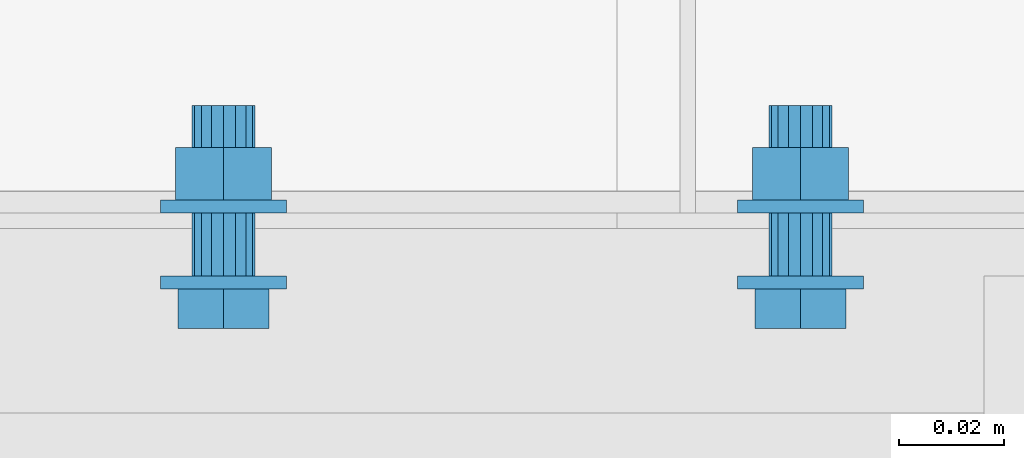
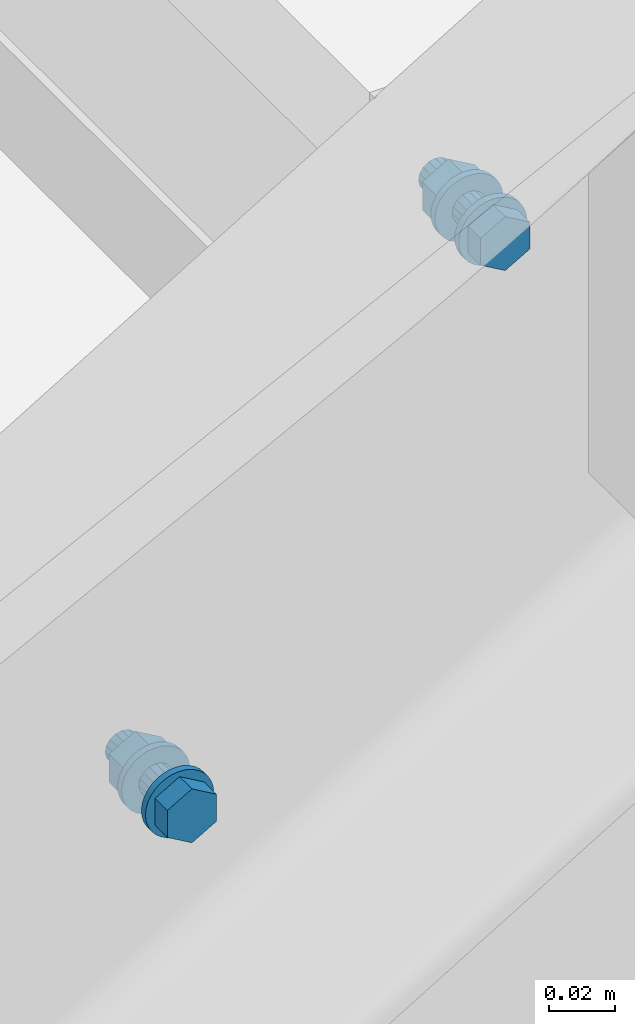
# One storey, part 206 of 410: 2 mechanical fasteners.
"""IFC2X3 building model written with IfcOpenShell, lengths in millimetres."""

from ifc_helpers import new_model, entity, si_unit, converted_unit, origin_with_axes, place, context, project, spatial, faceted_brep, element, save


model = new_model("IFC2X3")

# Units and contexts
model_context = context("Model", 3, precision=1e-09, world=origin_with_axes())
ifc_project = project(units=[si_unit("LENGTHUNIT", "METRE", prefix="MILLI"), si_unit("AREAUNIT", "SQUARE_METRE"), si_unit("VOLUMEUNIT", "CUBIC_METRE"), converted_unit("PLANEANGLEUNIT", "DEGREE", entity("IfcPlaneAngleMeasure", 0.01745329), si_unit("PLANEANGLEUNIT", "RADIAN"), dimensions=[0, 0, 0, 0, 0, 0, 0])], contexts=[model_context])

# Site, building, storey
site_placement = place(None, origin_with_axes())
site = spatial("IfcSite", under=ifc_project, at=site_placement, Name="mKR Teilneubau & Sanierung BA1 - Ostfildern", CompositionType="ELEMENT")
building_placement = place(site_placement, origin_with_axes())
building = spatial("IfcBuilding", under=site, at=building_placement, Name="Struktur 1", CompositionType="ELEMENT")
storey_placement = place(building_placement, origin_with_axes())
storey = spatial("IfcBuildingStorey", under=building, at=storey_placement, Name="Default Storey", CompositionType="ELEMENT", Elevation=0.0)

# Mechanical fasteners
mechanical_fastener_1_placement = place(None, origin_with_axes())
element("IfcMechanicalFastener", 1, at=mechanical_fastener_1_placement, inside=storey, ObjectType="Bolt", NominalDiameter=12.0, NominalLength=35.0, context=model_context, shape_type="Brep", body=[
    faceted_brep([(-922.0, 15508.499999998, 292.826087), (-922.0, 15510.999999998, 292.826087), (-921.769423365, 15510.999999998, 290.485003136), (-921.769423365, 15508.499999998, 290.485003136), (-921.08655439, 15510.999999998, 288.233885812), (-921.08655439, 15508.499999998, 288.233885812), (-919.977635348, 15510.999999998, 286.159244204), (-919.977635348, 15508.499999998, 286.159244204), (-918.485281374, 15510.999999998, 284.340805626), (-918.485281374, 15508.499999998, 284.340805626), (-916.666842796, 15510.999999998, 282.848451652), (-916.666842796, 15508.499999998, 282.848451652), (-914.592201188, 15510.999999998, 281.73953261), (-914.592201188, 15508.499999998, 281.73953261), (-912.341083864, 15510.999999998, 281.056663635), (-912.341083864, 15508.499999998, 281.056663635), (-910.0, 15510.999999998, 280.826087), (-910.0, 15508.499999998, 280.826087), (-907.658916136, 15510.999999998, 281.056663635), (-907.658916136, 15508.499999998, 281.056663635), (-905.407798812, 15510.999999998, 281.73953261), (-905.407798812, 15508.499999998, 281.73953261), (-903.333157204, 15510.999999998, 282.848451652), (-903.333157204, 15508.499999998, 282.848451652), (-901.514718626, 15510.999999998, 284.340805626), (-901.514718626, 15508.499999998, 284.340805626), (-900.022364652, 15510.999999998, 286.159244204), (-900.022364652, 15508.499999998, 286.159244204), (-898.91344561, 15510.999999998, 288.233885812), (-898.91344561, 15508.499999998, 288.233885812), (-898.230576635, 15510.999999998, 290.485003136), (-898.230576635, 15508.499999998, 290.485003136), (-898.0, 15510.999999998, 292.826087), (-898.0, 15508.499999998, 292.826087), (-898.230576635, 15510.999999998, 295.167170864), (-898.230576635, 15508.499999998, 295.167170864), (-898.91344561, 15510.999999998, 297.418288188), (-898.91344561, 15508.499999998, 297.418288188), (-900.022364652, 15510.999999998, 299.492929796), (-900.022364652, 15508.499999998, 299.492929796), (-901.514718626, 15510.999999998, 301.311368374), (-901.514718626, 15508.499999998, 301.311368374), (-903.333157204, 15510.999999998, 302.803722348), (-903.333157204, 15508.499999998, 302.803722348), (-905.407798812, 15510.999999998, 303.91264139), (-905.407798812, 15508.499999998, 303.91264139), (-907.658916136, 15510.999999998, 304.595510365), (-907.658916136, 15508.499999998, 304.595510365), (-910.0, 15510.999999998, 304.826087), (-910.0, 15508.499999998, 304.826087), (-912.341083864, 15510.999999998, 304.595510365), (-912.341083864, 15508.499999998, 304.595510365), (-914.592201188, 15510.999999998, 303.91264139), (-914.592201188, 15508.499999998, 303.91264139), (-916.666842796, 15510.999999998, 302.803722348), (-916.666842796, 15508.499999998, 302.803722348), (-918.485281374, 15510.999999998, 301.311368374), (-918.485281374, 15508.499999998, 301.311368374), (-919.977635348, 15510.999999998, 299.492929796), (-919.977635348, 15508.499999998, 299.492929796), (-921.08655439, 15510.999999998, 297.418288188), (-921.08655439, 15508.499999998, 297.418288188), (-921.769423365, 15510.999999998, 295.167170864), (-921.769423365, 15508.499999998, 295.167170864)], [[[0, 1, 2, 3]], [[3, 2, 4, 5]], [[5, 4, 6, 7]], [[7, 6, 8, 9]], [[9, 8, 10, 11]], [[11, 10, 12, 13]], [[13, 12, 14, 15]], [[15, 14, 16, 17]], [[17, 16, 18, 19]], [[19, 18, 20, 21]], [[21, 20, 22, 23]], [[23, 22, 24, 25]], [[25, 24, 26, 27]], [[27, 26, 28, 29]], [[29, 28, 30, 31]], [[31, 30, 32, 33]], [[33, 32, 34, 35]], [[35, 34, 36, 37]], [[37, 36, 38, 39]], [[39, 38, 40, 41]], [[41, 40, 42, 43]], [[43, 42, 44, 45]], [[45, 44, 46, 47]], [[47, 46, 48, 49]], [[49, 48, 50, 51]], [[51, 50, 52, 53]], [[53, 52, 54, 55]], [[55, 54, 56, 57]], [[57, 56, 58, 59]], [[59, 58, 60, 61]], [[61, 60, 62, 63]], [[63, 62, 1, 0]], [[0, 3, 5, 7, 9, 11, 13, 15, 17, 19, 21, 23, 25, 27, 29, 31, 33, 35, 37, 39, 41, 43, 45, 47, 49, 51, 53, 55, 57, 59, 61, 63]], [[1, 62, 60, 58, 56, 54, 52, 50, 48, 46, 44, 42, 40, 38, 36, 34, 32, 30, 28, 26, 24, 22, 20, 18, 16, 14, 12, 10, 8, 6, 4, 2]]]),
    faceted_brep([(-901.326755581, 15508.499999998, 287.818587), (-901.326755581, 15500.999999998, 287.818587), (-910.0, 15500.999999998, 282.811087), (-910.0, 15508.499999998, 282.811087), (-918.673244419, 15500.999999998, 287.818587), (-918.673244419, 15508.499999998, 287.818587), (-918.673244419, 15500.999999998, 297.833587), (-918.673244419, 15508.499999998, 297.833587), (-910.0, 15500.999999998, 302.841087), (-910.0, 15508.499999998, 302.841087), (-901.326755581, 15500.999999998, 297.833587), (-901.326755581, 15508.499999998, 297.833587)], [[[0, 1, 2, 3]], [[3, 2, 4, 5]], [[5, 4, 6, 7]], [[7, 6, 8, 9]], [[9, 8, 10, 11]], [[11, 10, 1, 0]], [[4, 2, 1, 10, 8, 6]], [[0, 3, 5, 7, 9, 11]]]),
    faceted_brep([(-916.0, 15510.999999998, 292.826087), (-916.0, 15522.999999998, 292.826087), (-915.543277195, 15522.999999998, 290.529986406), (-915.543277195, 15510.999999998, 290.529986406), (-914.242640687, 15522.999999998, 288.583446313), (-914.242640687, 15510.999999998, 288.583446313), (-912.296100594, 15522.999999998, 287.282809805), (-912.296100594, 15510.999999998, 287.282809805), (-910.0, 15522.999999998, 286.826087), (-910.0, 15510.999999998, 286.826087), (-907.703899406, 15522.999999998, 287.282809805), (-907.703899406, 15510.999999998, 287.282809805), (-905.757359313, 15522.999999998, 288.583446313), (-905.757359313, 15510.999999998, 288.583446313), (-904.456722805, 15522.999999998, 290.529986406), (-904.456722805, 15510.999999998, 290.529986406), (-904.0, 15522.999999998, 292.826087), (-904.0, 15510.999999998, 292.826087), (-904.456722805, 15522.999999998, 295.122187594), (-904.456722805, 15510.999999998, 295.122187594), (-905.757359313, 15522.999999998, 297.068727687), (-905.757359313, 15510.999999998, 297.068727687), (-907.703899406, 15522.999999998, 298.369364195), (-907.703899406, 15510.999999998, 298.369364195), (-910.0, 15522.999999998, 298.826087), (-910.0, 15510.999999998, 298.826087), (-912.296100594, 15522.999999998, 298.369364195), (-912.296100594, 15510.999999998, 298.369364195), (-914.242640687, 15522.999999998, 297.068727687), (-914.242640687, 15510.999999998, 297.068727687), (-915.543277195, 15522.999999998, 295.122187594), (-915.543277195, 15510.999999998, 295.122187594)], [[[0, 1, 2, 3]], [[3, 2, 4, 5]], [[5, 4, 6, 7]], [[7, 6, 8, 9]], [[9, 8, 10, 11]], [[11, 10, 12, 13]], [[13, 12, 14, 15]], [[15, 14, 16, 17]], [[17, 16, 18, 19]], [[19, 18, 20, 21]], [[21, 20, 22, 23]], [[23, 22, 24, 25]], [[25, 24, 26, 27]], [[27, 26, 28, 29]], [[29, 28, 30, 31]], [[31, 30, 1, 0]], [[0, 3, 5, 7, 9, 11, 13, 15, 17, 19, 21, 23, 25, 27, 29, 31]], [[1, 30, 28, 26, 24, 22, 20, 18, 16, 14, 12, 10, 8, 6, 4, 2]]]),
    faceted_brep([(-922.0, 15522.999999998, 292.826087), (-922.0, 15525.499999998, 292.826087), (-921.769423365, 15525.499999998, 290.485003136), (-921.769423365, 15522.999999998, 290.485003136), (-921.08655439, 15525.499999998, 288.233885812), (-921.08655439, 15522.999999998, 288.233885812), (-919.977635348, 15525.499999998, 286.159244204), (-919.977635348, 15522.999999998, 286.159244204), (-918.485281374, 15525.499999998, 284.340805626), (-918.485281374, 15522.999999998, 284.340805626), (-916.666842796, 15525.499999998, 282.848451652), (-916.666842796, 15522.999999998, 282.848451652), (-914.592201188, 15525.499999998, 281.73953261), (-914.592201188, 15522.999999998, 281.73953261), (-912.341083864, 15525.499999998, 281.056663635), (-912.341083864, 15522.999999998, 281.056663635), (-910.0, 15525.499999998, 280.826087), (-910.0, 15522.999999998, 280.826087), (-907.658916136, 15525.499999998, 281.056663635), (-907.658916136, 15522.999999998, 281.056663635), (-905.407798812, 15525.499999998, 281.73953261), (-905.407798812, 15522.999999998, 281.73953261), (-903.333157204, 15525.499999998, 282.848451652), (-903.333157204, 15522.999999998, 282.848451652), (-901.514718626, 15525.499999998, 284.340805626), (-901.514718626, 15522.999999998, 284.340805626), (-900.022364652, 15525.499999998, 286.159244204), (-900.022364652, 15522.999999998, 286.159244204), (-898.91344561, 15525.499999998, 288.233885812), (-898.91344561, 15522.999999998, 288.233885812), (-898.230576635, 15525.499999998, 290.485003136), (-898.230576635, 15522.999999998, 290.485003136), (-898.0, 15525.499999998, 292.826087), (-898.0, 15522.999999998, 292.826087), (-898.230576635, 15525.499999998, 295.167170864), (-898.230576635, 15522.999999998, 295.167170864), (-898.91344561, 15525.499999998, 297.418288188), (-898.91344561, 15522.999999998, 297.418288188), (-900.022364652, 15525.499999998, 299.492929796), (-900.022364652, 15522.999999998, 299.492929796), (-901.514718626, 15525.499999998, 301.311368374), (-901.514718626, 15522.999999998, 301.311368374), (-903.333157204, 15525.499999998, 302.803722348), (-903.333157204, 15522.999999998, 302.803722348), (-905.407798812, 15525.499999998, 303.91264139), (-905.407798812, 15522.999999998, 303.91264139), (-907.658916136, 15525.499999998, 304.595510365), (-907.658916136, 15522.999999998, 304.595510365), (-910.0, 15525.499999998, 304.826087), (-910.0, 15522.999999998, 304.826087), (-912.341083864, 15525.499999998, 304.595510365), (-912.341083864, 15522.999999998, 304.595510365), (-914.592201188, 15525.499999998, 303.91264139), (-914.592201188, 15522.999999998, 303.91264139), (-916.666842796, 15525.499999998, 302.803722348), (-916.666842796, 15522.999999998, 302.803722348), (-918.485281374, 15525.499999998, 301.311368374), (-918.485281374, 15522.999999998, 301.311368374), (-919.977635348, 15525.499999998, 299.492929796), (-919.977635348, 15522.999999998, 299.492929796), (-921.08655439, 15525.499999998, 297.418288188), (-921.08655439, 15522.999999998, 297.418288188), (-921.769423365, 15525.499999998, 295.167170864), (-921.769423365, 15522.999999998, 295.167170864)], [[[0, 1, 2, 3]], [[3, 2, 4, 5]], [[5, 4, 6, 7]], [[7, 6, 8, 9]], [[9, 8, 10, 11]], [[11, 10, 12, 13]], [[13, 12, 14, 15]], [[15, 14, 16, 17]], [[17, 16, 18, 19]], [[19, 18, 20, 21]], [[21, 20, 22, 23]], [[23, 22, 24, 25]], [[25, 24, 26, 27]], [[27, 26, 28, 29]], [[29, 28, 30, 31]], [[31, 30, 32, 33]], [[33, 32, 34, 35]], [[35, 34, 36, 37]], [[37, 36, 38, 39]], [[39, 38, 40, 41]], [[41, 40, 42, 43]], [[43, 42, 44, 45]], [[45, 44, 46, 47]], [[47, 46, 48, 49]], [[49, 48, 50, 51]], [[51, 50, 52, 53]], [[53, 52, 54, 55]], [[55, 54, 56, 57]], [[57, 56, 58, 59]], [[59, 58, 60, 61]], [[61, 60, 62, 63]], [[63, 62, 1, 0]], [[0, 3, 5, 7, 9, 11, 13, 15, 17, 19, 21, 23, 25, 27, 29, 31, 33, 35, 37, 39, 41, 43, 45, 47, 49, 51, 53, 55, 57, 59, 61, 63]], [[1, 62, 60, 58, 56, 54, 52, 50, 48, 46, 44, 42, 40, 38, 36, 34, 32, 30, 28, 26, 24, 22, 20, 18, 16, 14, 12, 10, 8, 6, 4, 2]]]),
    faceted_brep([(-900.86343199, 15535.499999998, 287.551087), (-900.86343199, 15525.499999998, 287.551087), (-910.0, 15525.499999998, 282.276087), (-910.0, 15535.499999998, 282.276087), (-919.13656801, 15525.499999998, 287.551087), (-919.13656801, 15535.499999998, 287.551087), (-919.13656801, 15525.499999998, 298.101087), (-919.13656801, 15535.499999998, 298.101087), (-910.0, 15525.499999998, 303.376087), (-910.0, 15535.499999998, 303.376087), (-900.86343199, 15525.499999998, 298.101087), (-900.86343199, 15535.499999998, 298.101087)], [[[0, 1, 2, 3]], [[3, 2, 4, 5]], [[5, 4, 6, 7]], [[7, 6, 8, 9]], [[9, 8, 10, 11]], [[11, 10, 1, 0]], [[4, 2, 1, 10, 8, 6]], [[0, 3, 5, 7, 9, 11]]]),
    faceted_brep([(-916.0, 15535.499999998, 292.826087), (-916.0, 15543.499999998, 292.826087), (-915.543277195, 15543.499999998, 290.529986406), (-915.543277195, 15535.499999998, 290.529986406), (-914.242640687, 15543.499999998, 288.583446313), (-914.242640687, 15535.499999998, 288.583446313), (-912.296100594, 15543.499999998, 287.282809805), (-912.296100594, 15535.499999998, 287.282809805), (-910.0, 15543.499999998, 286.826087), (-910.0, 15535.499999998, 286.826087), (-907.703899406, 15543.499999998, 287.282809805), (-907.703899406, 15535.499999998, 287.282809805), (-905.757359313, 15543.499999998, 288.583446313), (-905.757359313, 15535.499999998, 288.583446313), (-904.456722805, 15543.499999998, 290.529986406), (-904.456722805, 15535.499999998, 290.529986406), (-904.0, 15543.499999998, 292.826087), (-904.0, 15535.499999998, 292.826087), (-904.456722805, 15543.499999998, 295.122187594), (-904.456722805, 15535.499999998, 295.122187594), (-905.757359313, 15543.499999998, 297.068727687), (-905.757359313, 15535.499999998, 297.068727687), (-907.703899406, 15543.499999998, 298.369364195), (-907.703899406, 15535.499999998, 298.369364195), (-910.0, 15543.499999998, 298.826087), (-910.0, 15535.499999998, 298.826087), (-912.296100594, 15543.499999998, 298.369364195), (-912.296100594, 15535.499999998, 298.369364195), (-914.242640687, 15543.499999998, 297.068727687), (-914.242640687, 15535.499999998, 297.068727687), (-915.543277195, 15543.499999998, 295.122187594), (-915.543277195, 15535.499999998, 295.122187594)], [[[0, 1, 2, 3]], [[3, 2, 4, 5]], [[5, 4, 6, 7]], [[7, 6, 8, 9]], [[9, 8, 10, 11]], [[11, 10, 12, 13]], [[13, 12, 14, 15]], [[15, 14, 16, 17]], [[17, 16, 18, 19]], [[19, 18, 20, 21]], [[21, 20, 22, 23]], [[23, 22, 24, 25]], [[25, 24, 26, 27]], [[27, 26, 28, 29]], [[29, 28, 30, 31]], [[31, 30, 1, 0]], [[0, 3, 5, 7, 9, 11, 13, 15, 17, 19, 21, 23, 25, 27, 29, 31]], [[1, 30, 28, 26, 24, 22, 20, 18, 16, 14, 12, 10, 8, 6, 4, 2]]]),
])
mechanical_fastener_2_placement = place(None, origin_with_axes())
element("IfcMechanicalFastener", 2, at=mechanical_fastener_2_placement, inside=storey, ObjectType="Bolt", NominalDiameter=12.0, NominalLength=35.0, context=model_context, shape_type="Brep", body=[
    faceted_brep([(-812.0, 15508.499999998, 466.7391305), (-812.0, 15510.999999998, 466.7391305), (-811.769423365, 15510.999999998, 464.398046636), (-811.769423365, 15508.499999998, 464.398046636), (-811.08655439, 15510.999999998, 462.146929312), (-811.08655439, 15508.499999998, 462.146929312), (-809.977635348, 15510.999999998, 460.072287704), (-809.977635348, 15508.499999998, 460.072287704), (-808.485281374, 15510.999999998, 458.253849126), (-808.485281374, 15508.499999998, 458.253849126), (-806.666842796, 15510.999999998, 456.761495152), (-806.666842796, 15508.499999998, 456.761495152), (-804.592201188, 15510.999999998, 455.65257611), (-804.592201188, 15508.499999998, 455.65257611), (-802.341083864, 15510.999999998, 454.969707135), (-802.341083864, 15508.499999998, 454.969707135), (-800.0, 15510.999999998, 454.7391305), (-800.0, 15508.499999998, 454.7391305), (-797.658916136, 15510.999999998, 454.969707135), (-797.658916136, 15508.499999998, 454.969707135), (-795.407798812, 15510.999999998, 455.65257611), (-795.407798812, 15508.499999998, 455.65257611), (-793.333157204, 15510.999999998, 456.761495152), (-793.333157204, 15508.499999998, 456.761495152), (-791.514718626, 15510.999999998, 458.253849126), (-791.514718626, 15508.499999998, 458.253849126), (-790.022364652, 15510.999999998, 460.072287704), (-790.022364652, 15508.499999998, 460.072287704), (-788.91344561, 15510.999999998, 462.146929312), (-788.91344561, 15508.499999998, 462.146929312), (-788.230576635, 15510.999999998, 464.398046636), (-788.230576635, 15508.499999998, 464.398046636), (-788.0, 15510.999999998, 466.7391305), (-788.0, 15508.499999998, 466.7391305), (-788.230576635, 15510.999999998, 469.080214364), (-788.230576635, 15508.499999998, 469.080214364), (-788.91344561, 15510.999999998, 471.331331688), (-788.91344561, 15508.499999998, 471.331331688), (-790.022364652, 15510.999999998, 473.405973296), (-790.022364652, 15508.499999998, 473.405973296), (-791.514718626, 15510.999999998, 475.224411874), (-791.514718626, 15508.499999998, 475.224411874), (-793.333157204, 15510.999999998, 476.716765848), (-793.333157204, 15508.499999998, 476.716765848), (-795.407798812, 15510.999999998, 477.82568489), (-795.407798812, 15508.499999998, 477.82568489), (-797.658916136, 15510.999999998, 478.508553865), (-797.658916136, 15508.499999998, 478.508553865), (-800.0, 15510.999999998, 478.7391305), (-800.0, 15508.499999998, 478.7391305), (-802.341083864, 15510.999999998, 478.508553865), (-802.341083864, 15508.499999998, 478.508553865), (-804.592201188, 15510.999999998, 477.82568489), (-804.592201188, 15508.499999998, 477.82568489), (-806.666842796, 15510.999999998, 476.716765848), (-806.666842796, 15508.499999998, 476.716765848), (-808.485281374, 15510.999999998, 475.224411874), (-808.485281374, 15508.499999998, 475.224411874), (-809.977635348, 15510.999999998, 473.405973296), (-809.977635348, 15508.499999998, 473.405973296), (-811.08655439, 15510.999999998, 471.331331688), (-811.08655439, 15508.499999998, 471.331331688), (-811.769423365, 15510.999999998, 469.080214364), (-811.769423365, 15508.499999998, 469.080214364)], [[[0, 1, 2, 3]], [[3, 2, 4, 5]], [[5, 4, 6, 7]], [[7, 6, 8, 9]], [[9, 8, 10, 11]], [[11, 10, 12, 13]], [[13, 12, 14, 15]], [[15, 14, 16, 17]], [[17, 16, 18, 19]], [[19, 18, 20, 21]], [[21, 20, 22, 23]], [[23, 22, 24, 25]], [[25, 24, 26, 27]], [[27, 26, 28, 29]], [[29, 28, 30, 31]], [[31, 30, 32, 33]], [[33, 32, 34, 35]], [[35, 34, 36, 37]], [[37, 36, 38, 39]], [[39, 38, 40, 41]], [[41, 40, 42, 43]], [[43, 42, 44, 45]], [[45, 44, 46, 47]], [[47, 46, 48, 49]], [[49, 48, 50, 51]], [[51, 50, 52, 53]], [[53, 52, 54, 55]], [[55, 54, 56, 57]], [[57, 56, 58, 59]], [[59, 58, 60, 61]], [[61, 60, 62, 63]], [[63, 62, 1, 0]], [[0, 3, 5, 7, 9, 11, 13, 15, 17, 19, 21, 23, 25, 27, 29, 31, 33, 35, 37, 39, 41, 43, 45, 47, 49, 51, 53, 55, 57, 59, 61, 63]], [[1, 62, 60, 58, 56, 54, 52, 50, 48, 46, 44, 42, 40, 38, 36, 34, 32, 30, 28, 26, 24, 22, 20, 18, 16, 14, 12, 10, 8, 6, 4, 2]]]),
    faceted_brep([(-791.326755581, 15508.499999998, 461.7316305), (-791.326755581, 15500.999999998, 461.7316305), (-800.0, 15500.999999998, 456.7241305), (-800.0, 15508.499999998, 456.7241305), (-808.673244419, 15500.999999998, 461.7316305), (-808.673244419, 15508.499999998, 461.7316305), (-808.673244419, 15500.999999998, 471.7466305), (-808.673244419, 15508.499999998, 471.7466305), (-800.0, 15500.999999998, 476.7541305), (-800.0, 15508.499999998, 476.7541305), (-791.326755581, 15500.999999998, 471.7466305), (-791.326755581, 15508.499999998, 471.7466305)], [[[0, 1, 2, 3]], [[3, 2, 4, 5]], [[5, 4, 6, 7]], [[7, 6, 8, 9]], [[9, 8, 10, 11]], [[11, 10, 1, 0]], [[4, 2, 1, 10, 8, 6]], [[0, 3, 5, 7, 9, 11]]]),
    faceted_brep([(-806.0, 15510.999999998, 466.7391305), (-806.0, 15522.999999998, 466.7391305), (-805.543277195, 15522.999999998, 464.443029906), (-805.543277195, 15510.999999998, 464.443029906), (-804.242640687, 15522.999999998, 462.496489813), (-804.242640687, 15510.999999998, 462.496489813), (-802.296100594, 15522.999999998, 461.195853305), (-802.296100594, 15510.999999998, 461.195853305), (-800.0, 15522.999999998, 460.7391305), (-800.0, 15510.999999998, 460.7391305), (-797.703899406, 15522.999999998, 461.195853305), (-797.703899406, 15510.999999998, 461.195853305), (-795.757359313, 15522.999999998, 462.496489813), (-795.757359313, 15510.999999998, 462.496489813), (-794.456722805, 15522.999999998, 464.443029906), (-794.456722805, 15510.999999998, 464.443029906), (-794.0, 15522.999999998, 466.7391305), (-794.0, 15510.999999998, 466.7391305), (-794.456722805, 15522.999999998, 469.035231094), (-794.456722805, 15510.999999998, 469.035231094), (-795.757359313, 15522.999999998, 470.981771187), (-795.757359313, 15510.999999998, 470.981771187), (-797.703899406, 15522.999999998, 472.282407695), (-797.703899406, 15510.999999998, 472.282407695), (-800.0, 15522.999999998, 472.7391305), (-800.0, 15510.999999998, 472.7391305), (-802.296100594, 15522.999999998, 472.282407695), (-802.296100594, 15510.999999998, 472.282407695), (-804.242640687, 15522.999999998, 470.981771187), (-804.242640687, 15510.999999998, 470.981771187), (-805.543277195, 15522.999999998, 469.035231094), (-805.543277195, 15510.999999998, 469.035231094)], [[[0, 1, 2, 3]], [[3, 2, 4, 5]], [[5, 4, 6, 7]], [[7, 6, 8, 9]], [[9, 8, 10, 11]], [[11, 10, 12, 13]], [[13, 12, 14, 15]], [[15, 14, 16, 17]], [[17, 16, 18, 19]], [[19, 18, 20, 21]], [[21, 20, 22, 23]], [[23, 22, 24, 25]], [[25, 24, 26, 27]], [[27, 26, 28, 29]], [[29, 28, 30, 31]], [[31, 30, 1, 0]], [[0, 3, 5, 7, 9, 11, 13, 15, 17, 19, 21, 23, 25, 27, 29, 31]], [[1, 30, 28, 26, 24, 22, 20, 18, 16, 14, 12, 10, 8, 6, 4, 2]]]),
    faceted_brep([(-812.0, 15522.999999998, 466.7391305), (-812.0, 15525.499999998, 466.7391305), (-811.769423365, 15525.499999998, 464.398046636), (-811.769423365, 15522.999999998, 464.398046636), (-811.08655439, 15525.499999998, 462.146929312), (-811.08655439, 15522.999999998, 462.146929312), (-809.977635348, 15525.499999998, 460.072287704), (-809.977635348, 15522.999999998, 460.072287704), (-808.485281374, 15525.499999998, 458.253849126), (-808.485281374, 15522.999999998, 458.253849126), (-806.666842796, 15525.499999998, 456.761495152), (-806.666842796, 15522.999999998, 456.761495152), (-804.592201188, 15525.499999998, 455.65257611), (-804.592201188, 15522.999999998, 455.65257611), (-802.341083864, 15525.499999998, 454.969707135), (-802.341083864, 15522.999999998, 454.969707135), (-800.0, 15525.499999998, 454.7391305), (-800.0, 15522.999999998, 454.7391305), (-797.658916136, 15525.499999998, 454.969707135), (-797.658916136, 15522.999999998, 454.969707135), (-795.407798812, 15525.499999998, 455.65257611), (-795.407798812, 15522.999999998, 455.65257611), (-793.333157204, 15525.499999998, 456.761495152), (-793.333157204, 15522.999999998, 456.761495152), (-791.514718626, 15525.499999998, 458.253849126), (-791.514718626, 15522.999999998, 458.253849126), (-790.022364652, 15525.499999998, 460.072287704), (-790.022364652, 15522.999999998, 460.072287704), (-788.91344561, 15525.499999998, 462.146929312), (-788.91344561, 15522.999999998, 462.146929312), (-788.230576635, 15525.499999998, 464.398046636), (-788.230576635, 15522.999999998, 464.398046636), (-788.0, 15525.499999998, 466.7391305), (-788.0, 15522.999999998, 466.7391305), (-788.230576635, 15525.499999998, 469.080214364), (-788.230576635, 15522.999999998, 469.080214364), (-788.91344561, 15525.499999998, 471.331331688), (-788.91344561, 15522.999999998, 471.331331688), (-790.022364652, 15525.499999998, 473.405973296), (-790.022364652, 15522.999999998, 473.405973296), (-791.514718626, 15525.499999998, 475.224411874), (-791.514718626, 15522.999999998, 475.224411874), (-793.333157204, 15525.499999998, 476.716765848), (-793.333157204, 15522.999999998, 476.716765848), (-795.407798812, 15525.499999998, 477.82568489), (-795.407798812, 15522.999999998, 477.82568489), (-797.658916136, 15525.499999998, 478.508553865), (-797.658916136, 15522.999999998, 478.508553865), (-800.0, 15525.499999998, 478.7391305), (-800.0, 15522.999999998, 478.7391305), (-802.341083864, 15525.499999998, 478.508553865), (-802.341083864, 15522.999999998, 478.508553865), (-804.592201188, 15525.499999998, 477.82568489), (-804.592201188, 15522.999999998, 477.82568489), (-806.666842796, 15525.499999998, 476.716765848), (-806.666842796, 15522.999999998, 476.716765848), (-808.485281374, 15525.499999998, 475.224411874), (-808.485281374, 15522.999999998, 475.224411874), (-809.977635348, 15525.499999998, 473.405973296), (-809.977635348, 15522.999999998, 473.405973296), (-811.08655439, 15525.499999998, 471.331331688), (-811.08655439, 15522.999999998, 471.331331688), (-811.769423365, 15525.499999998, 469.080214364), (-811.769423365, 15522.999999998, 469.080214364)], [[[0, 1, 2, 3]], [[3, 2, 4, 5]], [[5, 4, 6, 7]], [[7, 6, 8, 9]], [[9, 8, 10, 11]], [[11, 10, 12, 13]], [[13, 12, 14, 15]], [[15, 14, 16, 17]], [[17, 16, 18, 19]], [[19, 18, 20, 21]], [[21, 20, 22, 23]], [[23, 22, 24, 25]], [[25, 24, 26, 27]], [[27, 26, 28, 29]], [[29, 28, 30, 31]], [[31, 30, 32, 33]], [[33, 32, 34, 35]], [[35, 34, 36, 37]], [[37, 36, 38, 39]], [[39, 38, 40, 41]], [[41, 40, 42, 43]], [[43, 42, 44, 45]], [[45, 44, 46, 47]], [[47, 46, 48, 49]], [[49, 48, 50, 51]], [[51, 50, 52, 53]], [[53, 52, 54, 55]], [[55, 54, 56, 57]], [[57, 56, 58, 59]], [[59, 58, 60, 61]], [[61, 60, 62, 63]], [[63, 62, 1, 0]], [[0, 3, 5, 7, 9, 11, 13, 15, 17, 19, 21, 23, 25, 27, 29, 31, 33, 35, 37, 39, 41, 43, 45, 47, 49, 51, 53, 55, 57, 59, 61, 63]], [[1, 62, 60, 58, 56, 54, 52, 50, 48, 46, 44, 42, 40, 38, 36, 34, 32, 30, 28, 26, 24, 22, 20, 18, 16, 14, 12, 10, 8, 6, 4, 2]]]),
    faceted_brep([(-790.86343199, 15535.499999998, 461.4641305), (-790.86343199, 15525.499999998, 461.4641305), (-800.0, 15525.499999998, 456.1891305), (-800.0, 15535.499999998, 456.1891305), (-809.13656801, 15525.499999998, 461.4641305), (-809.13656801, 15535.499999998, 461.4641305), (-809.13656801, 15525.499999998, 472.0141305), (-809.13656801, 15535.499999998, 472.0141305), (-800.0, 15525.499999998, 477.2891305), (-800.0, 15535.499999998, 477.2891305), (-790.86343199, 15525.499999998, 472.0141305), (-790.86343199, 15535.499999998, 472.0141305)], [[[0, 1, 2, 3]], [[3, 2, 4, 5]], [[5, 4, 6, 7]], [[7, 6, 8, 9]], [[9, 8, 10, 11]], [[11, 10, 1, 0]], [[4, 2, 1, 10, 8, 6]], [[0, 3, 5, 7, 9, 11]]]),
    faceted_brep([(-806.0, 15535.499999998, 466.7391305), (-806.0, 15543.499999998, 466.7391305), (-805.543277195, 15543.499999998, 464.443029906), (-805.543277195, 15535.499999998, 464.443029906), (-804.242640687, 15543.499999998, 462.496489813), (-804.242640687, 15535.499999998, 462.496489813), (-802.296100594, 15543.499999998, 461.195853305), (-802.296100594, 15535.499999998, 461.195853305), (-800.0, 15543.499999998, 460.7391305), (-800.0, 15535.499999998, 460.7391305), (-797.703899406, 15543.499999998, 461.195853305), (-797.703899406, 15535.499999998, 461.195853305), (-795.757359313, 15543.499999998, 462.496489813), (-795.757359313, 15535.499999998, 462.496489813), (-794.456722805, 15543.499999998, 464.443029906), (-794.456722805, 15535.499999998, 464.443029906), (-794.0, 15543.499999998, 466.7391305), (-794.0, 15535.499999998, 466.7391305), (-794.456722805, 15543.499999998, 469.035231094), (-794.456722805, 15535.499999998, 469.035231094), (-795.757359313, 15543.499999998, 470.981771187), (-795.757359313, 15535.499999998, 470.981771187), (-797.703899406, 15543.499999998, 472.282407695), (-797.703899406, 15535.499999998, 472.282407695), (-800.0, 15543.499999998, 472.7391305), (-800.0, 15535.499999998, 472.7391305), (-802.296100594, 15543.499999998, 472.282407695), (-802.296100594, 15535.499999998, 472.282407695), (-804.242640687, 15543.499999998, 470.981771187), (-804.242640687, 15535.499999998, 470.981771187), (-805.543277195, 15543.499999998, 469.035231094), (-805.543277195, 15535.499999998, 469.035231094)], [[[0, 1, 2, 3]], [[3, 2, 4, 5]], [[5, 4, 6, 7]], [[7, 6, 8, 9]], [[9, 8, 10, 11]], [[11, 10, 12, 13]], [[13, 12, 14, 15]], [[15, 14, 16, 17]], [[17, 16, 18, 19]], [[19, 18, 20, 21]], [[21, 20, 22, 23]], [[23, 22, 24, 25]], [[25, 24, 26, 27]], [[27, 26, 28, 29]], [[29, 28, 30, 31]], [[31, 30, 1, 0]], [[0, 3, 5, 7, 9, 11, 13, 15, 17, 19, 21, 23, 25, 27, 29, 31]], [[1, 30, 28, 26, 24, 22, 20, 18, 16, 14, 12, 10, 8, 6, 4, 2]]]),
])

save(model, "model.ifc")
